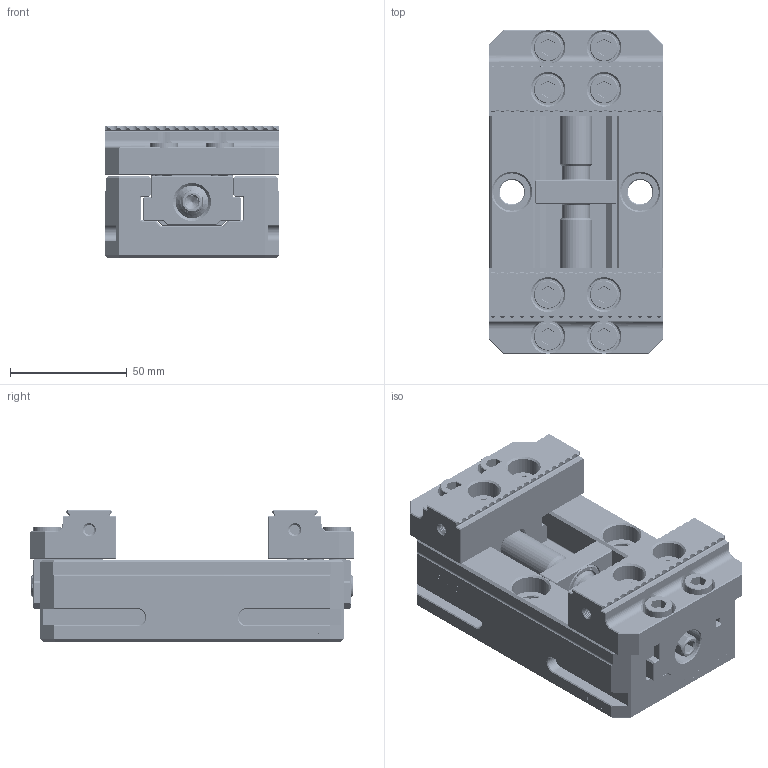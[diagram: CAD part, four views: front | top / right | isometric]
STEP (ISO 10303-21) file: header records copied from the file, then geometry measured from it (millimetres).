
FILE_DESCRIPTION(/* description */ (''),/* implementation_level */ '2;1');
FILE_NAME(/* name */ 'KSF75-130.stp',/* time_stamp */ '2025-04-16T17:54:35+08:00',/* author */ (''),/* organization */ (''),/* preprocessor_version */ 'ST-DEVELOPER v20',/* originating_system */ 'SIEMENS PLM Software NX2406.6001',/* authorisation */ '');
FILE_SCHEMA (('AUTOMOTIVE_DESIGN { 1 0 10303 214 3 1 1 1 }'));
Products named in the file (1): KSF75-130-2025_objects
Bounding box: 75 x 139 x 56.3 mm (x, y, z)
Volume: 360311.4 mm3; surface area: 105305.6 mm2
Topology: 17 solids, 17 shells, 1813 faces, 4783 edges, 3090 vertices
Faces by surface type: plane 1117, cylinder 284, cone 188, extrusion 176, bspline 46, torus 2
Full cylindrical faces by diameter (mm): 1.5 x12, 3 x1, 3.3 x2, 4.2 x40, 4.3 x10, 5 x1, 6 x2, 6.8 x13, 7.5 x2, 8.5 x8, 10 x2, 10.5 x2, 12 x14, 12.5 x2, 13.5 x8, 14 x4, 14.5 x2, 15.5 x2, 16 x3, 18 x1
Entity records: 117405 total; most frequent: CARTESIAN_POINT 75503, ORIENTED_EDGE 8478, DIRECTION 6914, EDGE_CURVE 4239, VERTEX_POINT 2869, AXIS2_PLACEMENT_3D 2322, VECTOR 2270, EDGE_LOOP 2126
